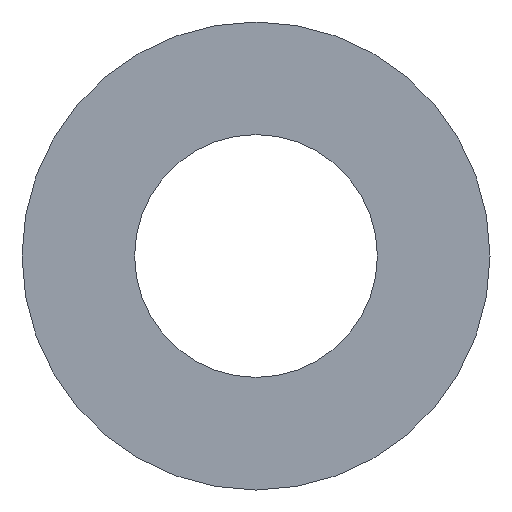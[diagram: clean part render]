
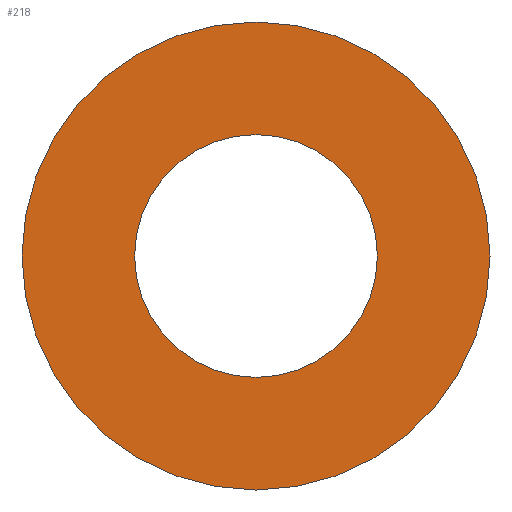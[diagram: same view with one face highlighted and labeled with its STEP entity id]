
A CAD part, front view. The second image highlights one B-rep face of the part: STEP entity #218.
In plain terms, the highlighted planar face has unit normal (0, -1, 0).
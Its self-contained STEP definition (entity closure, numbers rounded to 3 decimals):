
#45=CARTESIAN_POINT('',(0.,-2.,0.));
#46=DIRECTION('',(0.,1.,0.));
#47=DIRECTION('',(1.,0.,0.));
#48=AXIS2_PLACEMENT_3D('',#45,#46,#47);
#50=CARTESIAN_POINT('',(0.,-2.,0.));
#51=DIRECTION('',(0.,1.,0.));
#52=DIRECTION('',(-1.,0.,0.));
#53=AXIS2_PLACEMENT_3D('',#50,#51,#52);
#55=CARTESIAN_POINT('',(0.,-2.,0.));
#56=DIRECTION('',(0.,1.,0.));
#57=DIRECTION('',(-1.,0.,0.));
#58=AXIS2_PLACEMENT_3D('',#55,#56,#57);
#60=CARTESIAN_POINT('',(0.,-2.,0.));
#61=DIRECTION('',(0.,1.,0.));
#62=DIRECTION('',(1.,0.,0.));
#63=AXIS2_PLACEMENT_3D('',#60,#61,#62);
#105=CARTESIAN_POINT('',(8.,-2.,0.));
#106=VERTEX_POINT('',#105);
#107=CARTESIAN_POINT('',(-8.,-2.,0.));
#108=VERTEX_POINT('',#107);
#109=CARTESIAN_POINT('',(-4.15,-2.,0.));
#110=CARTESIAN_POINT('',(4.15,-2.,0.));
#111=VERTEX_POINT('',#109);
#112=VERTEX_POINT('',#110);
#203=CARTESIAN_POINT('',(0.,-2.,0.));
#204=DIRECTION('',(0.,1.,0.));
#205=DIRECTION('',(0.,0.,-1.));
#206=AXIS2_PLACEMENT_3D('',#203,#204,#205);
#207=PLANE('',#206);
#208=ORIENTED_EDGE('',*,*,#197,.T.);
#209=ORIENTED_EDGE('',*,*,#183,.T.);
#210=EDGE_LOOP('',(#208,#209));
#211=FACE_OUTER_BOUND('',#210,.F.);
#213=ORIENTED_EDGE('',*,*,#212,.F.);
#215=ORIENTED_EDGE('',*,*,#214,.F.);
#216=EDGE_LOOP('',(#213,#215));
#217=FACE_BOUND('',#216,.F.);
#218=ADVANCED_FACE('',(#211,#217),#207,.F.);
#49=CIRCLE('',#48,8.);
#54=CIRCLE('',#53,8.);
#59=CIRCLE('',#58,4.15);
#64=CIRCLE('',#63,4.15);
#183=EDGE_CURVE('',#108,#106,#54,.T.);
#197=EDGE_CURVE('',#106,#108,#49,.T.);
#212=EDGE_CURVE('',#111,#112,#59,.T.);
#214=EDGE_CURVE('',#112,#111,#64,.T.);
